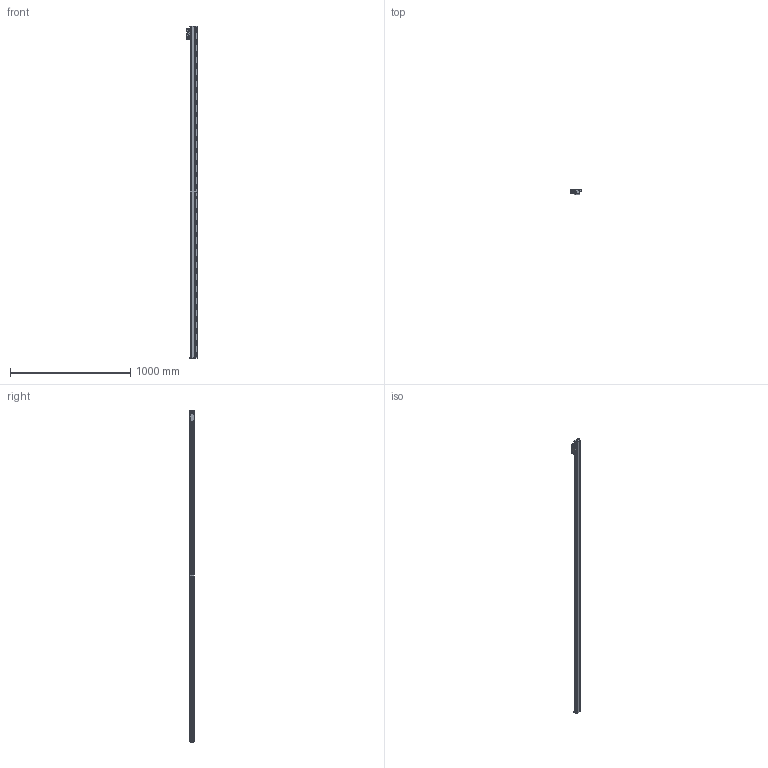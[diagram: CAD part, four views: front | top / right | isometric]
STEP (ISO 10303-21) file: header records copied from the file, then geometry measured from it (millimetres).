
FILE_DESCRIPTION(/* description */ (''),/* implementation_level */ '2;1');
FILE_NAME(/* name */ 'JC21A-2640-1.stp',/* time_stamp */ '2023-12-21T17:20:29+08:00',/* author */ (''),/* organization */ (''),/* preprocessor_version */ 'ST-DEVELOPER v14',/* originating_system */ 'SIEMENS PLM Software NX 8.0',/* authorisation */ '');
FILE_SCHEMA (('CONFIG_CONTROL_DESIGN'));
Length unit declared in the file: millimetre
Products named in the file (1): JC21A-2640-1
Bounding box: 87.5 x 37 x 2761 mm (x, y, z)
Volume: 4294444.6 mm3; surface area: 693111 mm2
Topology: 4 solids, 6 shells, 1463 faces, 4396 edges, 2929 vertices
Faces by surface type: plane 918, cylinder 513, cone 22, bspline 8, extrusion 2
Full cylindrical faces by diameter (mm): 2.5 x12, 3.3 x6, 3.7 x4, 4.2 x4, 5 x2, 6 x6, 6.6 x2, 6.8 x30, 7 x2, 13.2 x2
Entity records: 50559 total; most frequent: CARTESIAN_POINT 10291, ORIENTED_EDGE 8516, DIRECTION 8386, EDGE_CURVE 4258, VERTEX_POINT 2883, AXIS2_PLACEMENT_3D 2815, VECTOR 2756, LINE 2754
